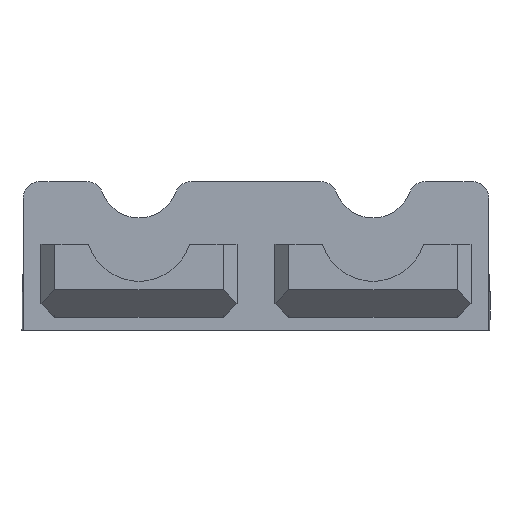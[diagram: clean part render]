
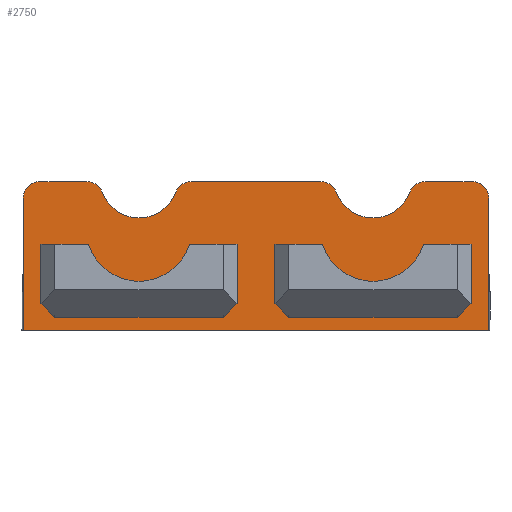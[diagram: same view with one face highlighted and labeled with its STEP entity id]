
A CAD part, left-side view. The second image highlights one B-rep face of the part: STEP entity #2750.
In plain terms, the highlighted planar face has unit normal (-1, 0, 0).
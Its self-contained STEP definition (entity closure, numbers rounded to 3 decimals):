
#47=FACE_BOUND('',#377,.T.);
#48=FACE_BOUND('',#378,.T.);
#85=PLANE('',#2970);
#199=FACE_OUTER_BOUND('',#376,.T.);
#376=EDGE_LOOP('',(#2077,#2078,#2079,#2080,#2081,#2082,#2083,#2084,#2085,
#2086,#2087,#2088,#2089,#2090));
#377=EDGE_LOOP('',(#2091,#2092,#2093,#2094,#2095,#2096));
#378=EDGE_LOOP('',(#2097,#2098,#2099,#2100,#2101,#2102));
#549=LINE('',#4164,#850);
#552=LINE('',#4170,#853);
#554=LINE('',#4176,#855);
#576=LINE('',#4221,#877);
#578=LINE('',#4227,#879);
#580=LINE('',#4231,#881);
#581=LINE('',#4233,#882);
#585=LINE('',#4249,#886);
#607=LINE('',#4294,#908);
#609=LINE('',#4300,#910);
#611=LINE('',#4304,#912);
#612=LINE('',#4306,#913);
#616=LINE('',#4322,#917);
#621=LINE('',#4331,#922);
#624=LINE('',#4339,#925);
#625=LINE('',#4341,#926);
#850=VECTOR('',#3280,10.);
#853=VECTOR('',#3285,10.);
#855=VECTOR('',#3289,10.);
#877=VECTOR('',#3327,10.);
#879=VECTOR('',#3335,10.);
#881=VECTOR('',#3339,10.);
#882=VECTOR('',#3342,10.);
#886=VECTOR('',#3360,10.);
#908=VECTOR('',#3398,10.);
#910=VECTOR('',#3406,10.);
#912=VECTOR('',#3410,10.);
#913=VECTOR('',#3413,10.);
#917=VECTOR('',#3431,10.);
#922=VECTOR('',#3438,10.);
#925=VECTOR('',#3447,10.);
#926=VECTOR('',#3450,10.);
#1129=CIRCLE('',#2936,9.5);
#1130=CIRCLE('',#2941,3.);
#1131=CIRCLE('',#2943,7.);
#1132=CIRCLE('',#2945,3.);
#1134=CIRCLE('',#2956,9.5);
#1135=CIRCLE('',#2961,3.);
#1136=CIRCLE('',#2963,7.);
#1137=CIRCLE('',#2965,3.);
#1138=CIRCLE('',#2969,3.);
#1139=CIRCLE('',#2971,3.);
#1263=VERTEX_POINT('',#4160);
#1264=VERTEX_POINT('',#4162);
#1265=VERTEX_POINT('',#4166);
#1266=VERTEX_POINT('',#4168);
#1268=VERTEX_POINT('',#4173);
#1269=VERTEX_POINT('',#4175);
#1283=VERTEX_POINT('',#4217);
#1284=VERTEX_POINT('',#4219);
#1285=VERTEX_POINT('',#4225);
#1286=VERTEX_POINT('',#4229);
#1287=VERTEX_POINT('',#4235);
#1288=VERTEX_POINT('',#4239);
#1290=VERTEX_POINT('',#4246);
#1291=VERTEX_POINT('',#4248);
#1305=VERTEX_POINT('',#4290);
#1306=VERTEX_POINT('',#4292);
#1307=VERTEX_POINT('',#4298);
#1308=VERTEX_POINT('',#4302);
#1309=VERTEX_POINT('',#4308);
#1310=VERTEX_POINT('',#4312);
#1311=VERTEX_POINT('',#4316);
#1312=VERTEX_POINT('',#4320);
#1313=VERTEX_POINT('',#4321);
#1315=VERTEX_POINT('',#4328);
#1316=VERTEX_POINT('',#4330);
#1318=VERTEX_POINT('',#4338);
#1505=EDGE_CURVE('',#1263,#1264,#549,.T.);
#1508=EDGE_CURVE('',#1265,#1266,#552,.T.);
#1510=EDGE_CURVE('',#1269,#1268,#554,.T.);
#1533=EDGE_CURVE('',#1283,#1284,#576,.T.);
#1534=EDGE_CURVE('',#1268,#1283,#1129,.T.);
#1536=EDGE_CURVE('',#1284,#1285,#578,.T.);
#1538=EDGE_CURVE('',#1285,#1286,#580,.T.);
#1539=EDGE_CURVE('',#1286,#1269,#581,.T.);
#1541=EDGE_CURVE('',#1287,#1266,#1130,.T.);
#1543=EDGE_CURVE('',#1287,#1288,#1131,.T.);
#1544=EDGE_CURVE('',#1263,#1288,#1132,.T.);
#1546=EDGE_CURVE('',#1291,#1290,#585,.T.);
#1569=EDGE_CURVE('',#1305,#1306,#607,.T.);
#1570=EDGE_CURVE('',#1290,#1305,#1134,.T.);
#1572=EDGE_CURVE('',#1306,#1307,#609,.T.);
#1574=EDGE_CURVE('',#1307,#1308,#611,.T.);
#1575=EDGE_CURVE('',#1308,#1291,#612,.T.);
#1577=EDGE_CURVE('',#1309,#1264,#1135,.T.);
#1579=EDGE_CURVE('',#1309,#1310,#1136,.T.);
#1581=EDGE_CURVE('',#1311,#1310,#1137,.T.);
#1582=EDGE_CURVE('',#1312,#1313,#616,.T.);
#1587=EDGE_CURVE('',#1316,#1315,#621,.T.);
#1590=EDGE_CURVE('',#1265,#1315,#1138,.T.);
#1591=EDGE_CURVE('',#1311,#1318,#624,.T.);
#1592=EDGE_CURVE('',#1312,#1318,#1139,.T.);
#1593=EDGE_CURVE('',#1316,#1313,#625,.T.);
#2077=ORIENTED_EDGE('',*,*,#1587,.T.);
#2078=ORIENTED_EDGE('',*,*,#1590,.F.);
#2079=ORIENTED_EDGE('',*,*,#1508,.T.);
#2080=ORIENTED_EDGE('',*,*,#1541,.F.);
#2081=ORIENTED_EDGE('',*,*,#1543,.T.);
#2082=ORIENTED_EDGE('',*,*,#1544,.F.);
#2083=ORIENTED_EDGE('',*,*,#1505,.T.);
#2084=ORIENTED_EDGE('',*,*,#1577,.F.);
#2085=ORIENTED_EDGE('',*,*,#1579,.T.);
#2086=ORIENTED_EDGE('',*,*,#1581,.F.);
#2087=ORIENTED_EDGE('',*,*,#1591,.T.);
#2088=ORIENTED_EDGE('',*,*,#1592,.F.);
#2089=ORIENTED_EDGE('',*,*,#1582,.T.);
#2090=ORIENTED_EDGE('',*,*,#1593,.F.);
#2091=ORIENTED_EDGE('',*,*,#1539,.T.);
#2092=ORIENTED_EDGE('',*,*,#1510,.T.);
#2093=ORIENTED_EDGE('',*,*,#1534,.T.);
#2094=ORIENTED_EDGE('',*,*,#1533,.T.);
#2095=ORIENTED_EDGE('',*,*,#1536,.T.);
#2096=ORIENTED_EDGE('',*,*,#1538,.T.);
#2097=ORIENTED_EDGE('',*,*,#1572,.T.);
#2098=ORIENTED_EDGE('',*,*,#1574,.T.);
#2099=ORIENTED_EDGE('',*,*,#1575,.T.);
#2100=ORIENTED_EDGE('',*,*,#1546,.T.);
#2101=ORIENTED_EDGE('',*,*,#1570,.T.);
#2102=ORIENTED_EDGE('',*,*,#1569,.T.);
#2750=ADVANCED_FACE('',(#199,#47,#48),#85,.F.);
#2936=AXIS2_PLACEMENT_3D('',#4223,#3330,#3331);
#2941=AXIS2_PLACEMENT_3D('',#4237,#3346,#3347);
#2943=AXIS2_PLACEMENT_3D('',#4241,#3351,#3352);
#2945=AXIS2_PLACEMENT_3D('',#4243,#3355,#3356);
#2956=AXIS2_PLACEMENT_3D('',#4296,#3401,#3402);
#2961=AXIS2_PLACEMENT_3D('',#4310,#3417,#3418);
#2963=AXIS2_PLACEMENT_3D('',#4314,#3422,#3423);
#2965=AXIS2_PLACEMENT_3D('',#4318,#3427,#3428);
#2969=AXIS2_PLACEMENT_3D('',#4336,#3443,#3444);
#2970=AXIS2_PLACEMENT_3D('',#4337,#3445,#3446);
#2971=AXIS2_PLACEMENT_3D('',#4340,#3448,#3449);
#3280=DIRECTION('',(0.,1.,0.));
#3285=DIRECTION('',(0.,1.,0.));
#3289=DIRECTION('',(0.,-1.,0.));
#3327=DIRECTION('',(0.,-1.,0.));
#3330=DIRECTION('center_axis',(-1.,0.,0.));
#3331=DIRECTION('ref_axis',(0.,1.,0.));
#3335=DIRECTION('',(0.,0.,-1.));
#3339=DIRECTION('',(0.,1.,0.));
#3342=DIRECTION('',(0.,0.,1.));
#3346=DIRECTION('center_axis',(1.,0.,0.));
#3347=DIRECTION('ref_axis',(0.,0.572,0.82));
#3351=DIRECTION('center_axis',(1.,0.,0.));
#3352=DIRECTION('ref_axis',(0.,1.,0.));
#3355=DIRECTION('center_axis',(1.,0.,0.));
#3356=DIRECTION('ref_axis',(0.,-0.572,0.82));
#3360=DIRECTION('',(0.,-1.,0.));
#3398=DIRECTION('',(0.,-1.,0.));
#3401=DIRECTION('center_axis',(-1.,0.,0.));
#3402=DIRECTION('ref_axis',(0.,1.,0.));
#3406=DIRECTION('',(0.,0.,-1.));
#3410=DIRECTION('',(0.,1.,0.));
#3413=DIRECTION('',(0.,0.,1.));
#3417=DIRECTION('center_axis',(1.,0.,0.));
#3418=DIRECTION('ref_axis',(0.,0.572,0.82));
#3422=DIRECTION('center_axis',(1.,0.,0.));
#3423=DIRECTION('ref_axis',(0.,1.,0.));
#3427=DIRECTION('center_axis',(1.,0.,0.));
#3428=DIRECTION('ref_axis',(0.,-0.572,0.82));
#3431=DIRECTION('',(0.,0.,-1.));
#3438=DIRECTION('',(0.,0.,1.));
#3443=DIRECTION('center_axis',(1.,0.,0.));
#3444=DIRECTION('ref_axis',(0.,-0.707,0.707));
#3445=DIRECTION('center_axis',(1.,0.,0.));
#3446=DIRECTION('ref_axis',(0.,1.,0.));
#3447=DIRECTION('',(0.,1.,0.));
#3448=DIRECTION('center_axis',(1.,0.,0.));
#3449=DIRECTION('ref_axis',(0.,0.707,0.707));
#3450=DIRECTION('',(0.,1.,0.));
#4160=CARTESIAN_POINT('',(96.15,9.382,-147.76));
#4162=CARTESIAN_POINT('',(96.15,32.618,-147.76));
#4164=CARTESIAN_POINT('',(96.15,21.2,-147.76));
#4166=CARTESIAN_POINT('',(96.15,-17.8,-147.76));
#4168=CARTESIAN_POINT('',(96.15,-9.382,-147.76));
#4170=CARTESIAN_POINT('',(96.15,-20.8,-147.76));
#4173=CARTESIAN_POINT('',(96.15,9.062,-159.));
#4175=CARTESIAN_POINT('',(96.15,15.1,-159.));
#4176=CARTESIAN_POINT('',(96.15,0.,-159.));
#4217=CARTESIAN_POINT('',(96.15,-9.062,-159.));
#4219=CARTESIAN_POINT('',(96.15,-15.1,-159.));
#4221=CARTESIAN_POINT('',(96.15,0.,-159.));
#4223=CARTESIAN_POINT('Origin',(96.15,0.,-156.15));
#4225=CARTESIAN_POINT('',(96.15,-15.1,-172.15));
#4227=CARTESIAN_POINT('',(96.15,-15.1,-160.));
#4229=CARTESIAN_POINT('',(96.15,15.1,-172.15));
#4231=CARTESIAN_POINT('',(96.15,0.,-172.15));
#4233=CARTESIAN_POINT('',(96.15,15.1,-166.046));
#4235=CARTESIAN_POINT('',(96.15,-6.567,-149.722));
#4237=CARTESIAN_POINT('Origin',(96.15,-9.382,-150.76));
#4239=CARTESIAN_POINT('',(96.15,6.567,-149.722));
#4241=CARTESIAN_POINT('Origin',(96.15,0.,-147.298));
#4243=CARTESIAN_POINT('Origin',(96.15,9.382,-150.76));
#4246=CARTESIAN_POINT('',(96.15,51.062,-159.));
#4248=CARTESIAN_POINT('',(96.15,57.1,-159.));
#4249=CARTESIAN_POINT('',(96.15,42.,-159.));
#4290=CARTESIAN_POINT('',(96.15,32.938,-159.));
#4292=CARTESIAN_POINT('',(96.15,26.9,-159.));
#4294=CARTESIAN_POINT('',(96.15,42.,-159.));
#4296=CARTESIAN_POINT('Origin',(96.15,42.,-156.15));
#4298=CARTESIAN_POINT('',(96.15,26.9,-172.15));
#4300=CARTESIAN_POINT('',(96.15,26.9,-160.));
#4302=CARTESIAN_POINT('',(96.15,57.1,-172.15));
#4304=CARTESIAN_POINT('',(96.15,42.,-172.15));
#4306=CARTESIAN_POINT('',(96.15,57.1,-166.046));
#4308=CARTESIAN_POINT('',(96.15,35.433,-149.722));
#4310=CARTESIAN_POINT('Origin',(96.15,32.618,-150.76));
#4312=CARTESIAN_POINT('',(96.15,48.567,-149.722));
#4314=CARTESIAN_POINT('Origin',(96.15,42.,-147.298));
#4316=CARTESIAN_POINT('',(96.15,51.382,-147.76));
#4318=CARTESIAN_POINT('Origin',(96.15,51.382,-150.76));
#4320=CARTESIAN_POINT('',(96.15,62.8,-150.76));
#4321=CARTESIAN_POINT('',(96.15,62.8,-174.478));
#4322=CARTESIAN_POINT('',(96.15,62.8,-166.033));
#4328=CARTESIAN_POINT('',(96.15,-20.8,-150.76));
#4330=CARTESIAN_POINT('',(96.15,-20.8,-174.478));
#4331=CARTESIAN_POINT('',(96.15,-20.8,-153.851));
#4336=CARTESIAN_POINT('Origin',(96.15,-17.8,-150.76));
#4337=CARTESIAN_POINT('Origin',(96.15,0.,-159.942));
#4338=CARTESIAN_POINT('',(96.15,59.8,-147.76));
#4339=CARTESIAN_POINT('',(96.15,21.2,-147.76));
#4340=CARTESIAN_POINT('Origin',(96.15,59.8,-150.76));
#4341=CARTESIAN_POINT('',(96.15,-20.8,-174.478));
